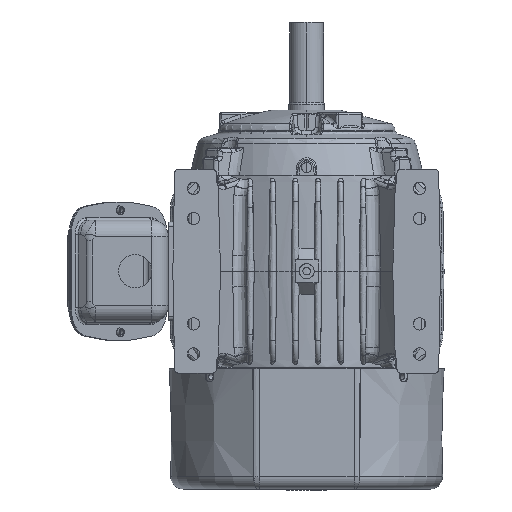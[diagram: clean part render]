
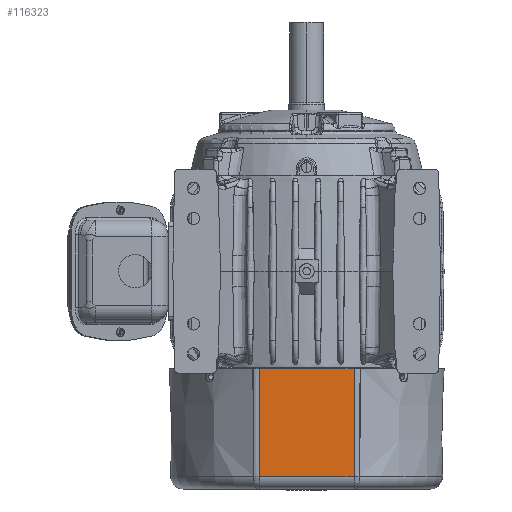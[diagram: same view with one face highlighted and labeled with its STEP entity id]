
A CAD part, front view. The second image highlights one B-rep face of the part: STEP entity #116323.
In plain terms, the highlighted planar face has unit normal (0, -1, -0.015) as drawn and (0, -1, 0.015) by its records, which use the part's own axes.
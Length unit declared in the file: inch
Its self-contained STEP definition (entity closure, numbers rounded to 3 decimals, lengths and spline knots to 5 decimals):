
#111547=DIRECTION('',(-1.,0.,0.));
#111548=VECTOR('',#111547,3.14757);
#111549=CARTESIAN_POINT('',(1.57379,-4.19456,
3.59096));
#111550=LINE('',#111549,#111548);
#111551=DIRECTION('',(0.,-0.015,
-1.));
#111552=VECTOR('',#111551,3.59138);
#111553=CARTESIAN_POINT('',(-1.57379,-4.19456,
3.59096));
#111554=LINE('',#111553,#111552);
#111555=DIRECTION('',(0.,-0.015,
-1.));
#111556=VECTOR('',#111555,3.59138);
#111557=CARTESIAN_POINT('',(1.57379,-4.19456,
3.59096));
#111558=LINE('',#111557,#111556);
#112006=DIRECTION('',(1.,0.,0.));
#112007=VECTOR('',#112006,3.14757);
#112008=CARTESIAN_POINT('',(-1.57379,-4.2496,0.));
#112009=LINE('',#112008,#112007);
#113749=CARTESIAN_POINT('',(-1.57379,-4.2496,0.));
#113751=VERTEX_POINT('',#113749);
#113752=CARTESIAN_POINT('',(1.57379,-4.2496,0.));
#113753=VERTEX_POINT('',#113752);
#114474=CARTESIAN_POINT('',(1.57379,-4.19456,
3.59096));
#114475=CARTESIAN_POINT('',(-1.57379,-4.19456,
3.59096));
#114476=VERTEX_POINT('',#114474);
#114477=VERTEX_POINT('',#114475);
#116309=CARTESIAN_POINT('',(-1.57379,-4.18829,3.9996));
#116310=DIRECTION('',(0.,-1.,0.015));
#116311=DIRECTION('',(0.,-0.015,-1.));
#116312=AXIS2_PLACEMENT_3D('',#116309,#116310,#116311);
#116313=PLANE('',#116312);
#116314=ORIENTED_EDGE('',*,*,#116299,.F.);
#116316=ORIENTED_EDGE('',*,*,#116315,.T.);
#116318=ORIENTED_EDGE('',*,*,#116317,.F.);
#116320=ORIENTED_EDGE('',*,*,#116319,.F.);
#116321=EDGE_LOOP('',(#116314,#116316,#116318,#116320));
#116322=FACE_OUTER_BOUND('',#116321,.F.);
#116323=ADVANCED_FACE('',(#116322),#116313,.T.);
#116299=EDGE_CURVE('',#114476,#114477,#111550,.T.);
#116315=EDGE_CURVE('',#114476,#113753,#111558,.T.);
#116317=EDGE_CURVE('',#113751,#113753,#112009,.T.);
#116319=EDGE_CURVE('',#114477,#113751,#111554,.T.);
